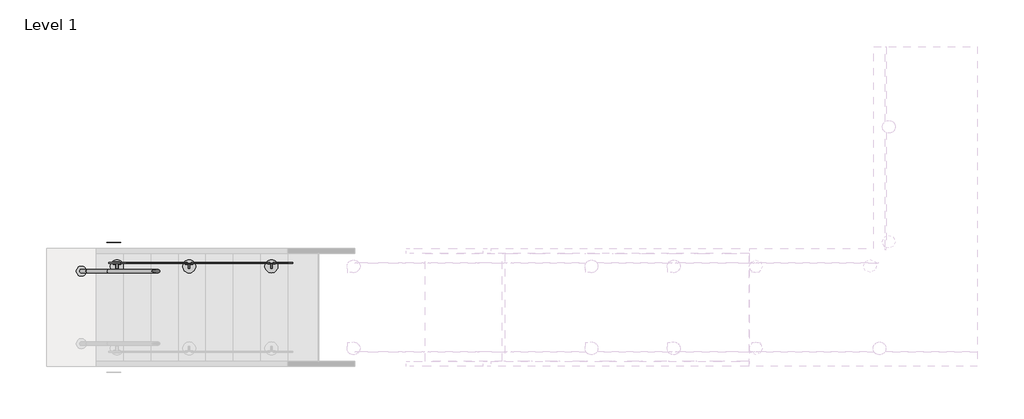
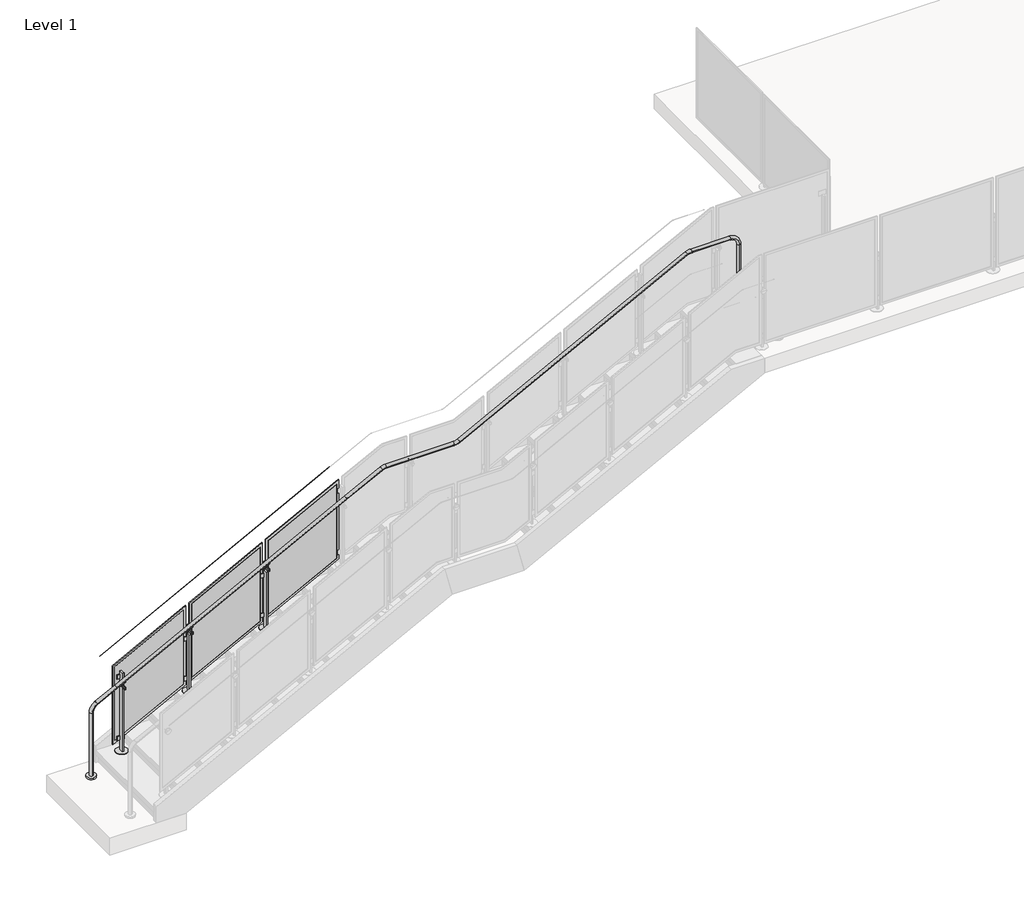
# One storey, part 25 of 28: 1 railing.
"""IFC4 building model written with IfcOpenShell, lengths in millimetres."""

from ifc_helpers import new_model, si_unit, point, frame, frame_2d, origin, place, context, project, spatial, polyline, circle_curve, ellipse_curve, trimmed, segment, composite_curve, outline, extrude, element, save
from ifc_brep_helpers import plane_surface, cylinder_surface, revolved_surface, advanced_brep

model = new_model("IFC4")

# Units and contexts
model_context = context("Model", 3, world=origin())
ifc_project = project(units=[si_unit("LENGTHUNIT", "METRE", prefix="MILLI")], contexts=[model_context])

# Site, building, storey
site = spatial("IfcSite", under=ifc_project)
building = spatial("IfcBuilding", under=site)
storey = spatial("IfcBuildingStorey", under=building, Name="Level 1", Elevation=0.0)

# Railing
placement = place(None, origin())
element("IfcRailing", 1, ObjectType="Metal-Panel-VIVA-STRUC-Top_Core-Stairs--Lower", at=placement, inside=storey, context=model_context, shape_type="SolidModel", body=[
    extrude(outline(composite_curve([segment(trimmed(circle_curve(frame_2d((-12073.0515794, 9296.0419722)), 50.8), [point((-12073.0515794, 9245.2419722))], [point((-12073.0515794, 9346.8419722))], False, "CARTESIAN"), True, "CONTINUOUS"), segment(trimmed(circle_curve(frame_2d((-12073.0515794, 9296.0419722)), 50.8), [point((-12073.0515794, 9346.8419722))], [point((-12073.0515794, 9245.2419722))], False, "CARTESIAN"), True, "CONTINUOUS")], self_intersect=False)), frame((0.0, 0.0, 3047.9164465), z_axis=(0.0, 0.0, 1.0), x_axis=(1.0, 0.0, 0.0)), (0.0, 0.0, 1.0), 19.05),
    extrude(outline(composite_curve([segment(trimmed(circle_curve(frame_2d((-19157.6813244, 9296.0419722)), 50.8), [point((-19157.6813244, 9346.8419722))], [point((-19157.6813244, 9245.2419722))], False, "CARTESIAN"), True, "CONTINUOUS"), segment(trimmed(circle_curve(frame_2d((-19157.6813244, 9296.0419722)), 50.8), [point((-19157.6813244, 9245.2419722))], [point((-19157.6813244, 9346.8419722))], False, "CARTESIAN"), True, "CONTINUOUS")], self_intersect=False)), frame((0.0, 0.0, -0.1113211), z_axis=(0.0, 0.0, 1.0), x_axis=(1.0, 0.0, 0.0)), (0.0, 0.0, 1.0), 19.05),
    advanced_brep(
    [(-19157.6813244, 9276.9919722, 18.9386789), (-19157.6813244, 9315.0919722, 18.9386789), (-19157.6813244, 9276.9919722, 743.6520958), (-19157.6813244, 9315.0919722, 743.6520958), (-19102.917891, 9315.0919722, 833.8124864), (-19102.917891, 9276.9919722, 833.8124864), (-18888.5494682, 9276.9919722, 945.172706), (-18888.5494682, 9315.0919722, 945.172706), (-16373.9494682, 9276.9919722, 2251.4584203), (-16373.9494682, 9315.0919722, 2251.4584203), (-15937.6556338, 9315.0919722, 2465.2134935), (-15937.6556338, 9276.9919722, 2465.2134935), (-15199.5082651, 9276.9919722, 2465.2134935), (-15199.5082651, 9315.0919722, 2465.2134935), (-15135.1079861, 9315.0919722, 2480.9429564), (-15135.1079861, 9276.9919722, 2480.9429564), (-12645.7274553, 9276.9919722, 3774.1276477), (-12645.7274553, 9315.0919722, 3774.1276477), (-15984.4922003, 9276.9919722, 2453.7738841), (-15984.4922003, 9315.0919722, 2453.7738841), (-12598.8908888, 9315.0919722, 3785.5672571), (-12598.8908888, 9276.9919722, 3785.5672571), (-12174.6515794, 9276.9919722, 3785.5672571), (-12174.6515794, 9315.0919722, 3785.5672571), (-12073.0515794, 9315.0919722, 3683.9672571), (-12073.0515794, 9276.9919722, 3683.9672571), (-12073.0515794, 9276.9919722, 3066.9664465), (-12073.0515794, 9315.0919722, 3066.9664465)],
    [
        (0, 1, circle_curve(frame((-19157.6813244, 9296.0419722, 18.9386789), z_axis=(0.0, 0.0, -1.0), x_axis=(0.0, 1.0, 0.0)), 19.05)),
        (1, 0, circle_curve(frame((-19157.6813244, 9296.0419722, 18.9386789), z_axis=(0.0, 0.0, -1.0), x_axis=(0.0, 1.0, 0.0)), 19.05)),
        (0, 2),
        (2, 3, circle_curve(frame((-19157.6813244, 9296.0419722, 743.6520958), z_axis=(0.0, 0.0, -1.0), x_axis=(0.0, 1.0, 0.0)), 19.05)),
        (3, 1),
        (3, 2, circle_curve(frame((-19157.6813244, 9296.0419722, 743.6520958), z_axis=(0.0, 0.0, -1.0), x_axis=(0.0, 1.0, 0.0)), 19.05)),
        (4, 3, circle_curve(frame((-19056.0813244, 9315.0919722, 743.6520958), z_axis=(0.0, -1.0, 0.0), x_axis=(-0.9999999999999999, 0.0, 0.0)), 101.6)),
        (2, 5, circle_curve(frame((-19056.0813244, 9276.9919722, 743.6520958), z_axis=(0.0, 1.0, 0.0), x_axis=(-0.9999999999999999, 0.0, 0.0)), 101.6)),
        (5, 4, circle_curve(frame((-19102.917891, 9296.0419722, 833.8124864), z_axis=(-0.8874054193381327, 0.0, -0.4609898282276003), x_axis=(0.0, 0.9999999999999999, 0.0)), 19.05)),
        (4, 5, circle_curve(frame((-19102.917891, 9296.0419722, 833.8124864), z_axis=(-0.8874054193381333, 0.0, -0.46098982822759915), x_axis=(0.0, 0.9999999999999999, 0.0)), 19.05)),
        (5, 6),
        (6, 7, circle_curve(frame((-18888.5494682, 9296.0419722, 945.172706), z_axis=(-0.8874054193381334, 0.0, -0.46098982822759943), x_axis=(0.0, 1.0, 0.0)), 19.05)),
        (7, 4),
        (7, 6, circle_curve(frame((-18888.5494682, 9296.0419722, 945.172706), z_axis=(-0.8874054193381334, 0.0, -0.46098982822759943), x_axis=(0.0, 1.0, 0.0)), 19.05)),
        (6, 8),
        (8, 9, circle_curve(frame((-16373.9494682, 9296.0419722, 2251.4584203), z_axis=(-0.8874054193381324, 0.0, -0.4609898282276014), x_axis=(0.0, 1.0, 0.0)), 19.05)),
        (9, 7),
        (9, 8, circle_curve(frame((-16373.9494682, 9296.0419722, 2251.4584203), z_axis=(-0.8874054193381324, 0.0, -0.4609898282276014), x_axis=(0.0, 1.0, 0.0)), 19.05)),
        (10, 11, circle_curve(frame((-15937.6556338, 9296.0419722, 2465.2134935), z_axis=(1.0, 0.0, 0.0), x_axis=(0.0, 1.0, 0.0)), 19.05)),
        (11, 12),
        (12, 13, circle_curve(frame((-15199.5082651, 9296.0419722, 2465.2134935), z_axis=(-1.0, 0.0, 0.0), x_axis=(0.0, 1.0, 0.0)), 19.05)),
        (13, 10),
        (11, 10, circle_curve(frame((-15937.6556338, 9296.0419722, 2465.2134935), z_axis=(1.0, 0.0, 0.0), x_axis=(0.0, 1.0, 0.0)), 19.05)),
        (13, 12, circle_curve(frame((-15199.5082651, 9296.0419722, 2465.2134935), z_axis=(-1.0, 0.0, 0.0), x_axis=(0.0, 1.0, 0.0)), 19.05)),
        (14, 15, circle_curve(frame((-15135.1079861, 9296.0419722, 2480.9429564), z_axis=(0.8874054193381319, 0.0, 0.4609898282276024), x_axis=(0.0, 1.0, 0.0)), 19.05)),
        (15, 16),
        (16, 17, circle_curve(frame((-12645.7274553, 9296.0419722, 3774.1276477), z_axis=(-0.8874054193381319, 0.0, -0.4609898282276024), x_axis=(0.0, 1.0, 0.0)), 19.05)),
        (17, 14),
        (15, 14, circle_curve(frame((-15135.1079861, 9296.0419722, 2480.9429564), z_axis=(0.8874054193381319, 0.0, 0.4609898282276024), x_axis=(0.0, 1.0, 0.0)), 19.05)),
        (17, 16, circle_curve(frame((-12645.7274553, 9296.0419722, 3774.1276477), z_axis=(-0.8874054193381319, 0.0, -0.4609898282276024), x_axis=(0.0, 1.0, 0.0)), 19.05)),
        (14, 13, circle_curve(frame((-15199.5082651, 9315.0919722, 2604.9134935), z_axis=(0.0, 1.0, 0.0), x_axis=(0.0, 0.0, -1.0)), 139.7)),
        (12, 15, circle_curve(frame((-15199.5082651, 9276.9919722, 2604.9134935), z_axis=(0.0, -1.0, 0.0), x_axis=(0.0, 0.0, -1.0)), 139.7)),
        (8, 18),
        (18, 19, circle_curve(frame((-15984.4922003, 9296.0419722, 2453.7738841), z_axis=(-0.8874054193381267, 0.0, -0.4609898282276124), x_axis=(0.0, 1.0, 0.0)), 19.05)),
        (19, 9),
        (19, 18, circle_curve(frame((-15984.4922003, 9296.0419722, 2453.7738841), z_axis=(-0.8874054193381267, 0.0, -0.4609898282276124), x_axis=(0.0, 1.0, 0.0)), 19.05)),
        (10, 19, circle_curve(frame((-15937.6556338, 9315.0919722, 2363.6134935), z_axis=(0.0, -1.0, 0.0), x_axis=(-0.4609898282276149, 0.0, 0.8874054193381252)), 101.6)),
        (18, 11, circle_curve(frame((-15937.6556338, 9276.9919722, 2363.6134935), z_axis=(0.0, 1.0, 0.0), x_axis=(-0.4609898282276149, 0.0, 0.8874054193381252)), 101.6)),
        (20, 17, circle_curve(frame((-12598.8908888, 9315.0919722, 3683.9672571), z_axis=(0.0, -1.0, 0.0), x_axis=(-0.4609898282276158, 0.0, 0.8874054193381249)), 101.6)),
        (16, 21, circle_curve(frame((-12598.8908888, 9276.9919722, 3683.9672571), z_axis=(0.0, 1.0, 0.0), x_axis=(-0.4609898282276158, 0.0, 0.8874054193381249)), 101.6)),
        (21, 20, circle_curve(frame((-12598.8908888, 9296.0419722, 3785.5672571), z_axis=(-1.0, 0.0, 0.0), x_axis=(0.0, 1.0, 0.0)), 19.05)),
        (20, 21, circle_curve(frame((-12598.8908888, 9296.0419722, 3785.5672571), z_axis=(-0.9999999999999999, 0.0, 0.0), x_axis=(0.0, 1.0, 0.0)), 19.05)),
        (21, 22),
        (22, 23, circle_curve(frame((-12174.6515794, 9296.0419722, 3785.5672571), z_axis=(-1.0, 0.0, 0.0), x_axis=(0.0, 1.0, 0.0)), 19.05)),
        (23, 20),
        (23, 22, circle_curve(frame((-12174.6515794, 9296.0419722, 3785.5672571), z_axis=(-1.0, 0.0, 0.0), x_axis=(0.0, 1.0, 0.0)), 19.05)),
        (24, 23, circle_curve(frame((-12174.6515794, 9315.0919722, 3683.9672571), z_axis=(0.0, -1.0, 0.0), x_axis=(0.0, 0.0, 1.0)), 101.6)),
        (22, 25, circle_curve(frame((-12174.6515794, 9276.9919722, 3683.9672571), z_axis=(0.0, 1.0, 0.0), x_axis=(0.0, 0.0, 1.0)), 101.6)),
        (25, 24, circle_curve(frame((-12073.0515794, 9296.0419722, 3683.9672571), z_axis=(0.0, 0.0, 1.0), x_axis=(0.0, 1.0, 0.0)), 19.05)),
        (24, 25, circle_curve(frame((-12073.0515794, 9296.0419722, 3683.9672571), z_axis=(0.0, 0.0, 1.0), x_axis=(0.0, 1.0, 0.0)), 19.05)),
        (26, 27, circle_curve(frame((-12073.0515794, 9296.0419722, 3066.9664465), z_axis=(0.0, 0.0, -1.0), x_axis=(0.0, 1.0, 0.0)), 19.05)),
        (27, 26, circle_curve(frame((-12073.0515794, 9296.0419722, 3066.9664465), z_axis=(0.0, 0.0, -1.0), x_axis=(0.0, 1.0, 0.0)), 19.05)),
        (25, 26),
        (27, 24),
    ],
    [
        plane_surface(frame((-19176.7313244, 9257.9419722, 18.9386789), z_axis=(0.0, 0.0, -1.0), x_axis=(1.0, 0.0, 0.0))),
        cylinder_surface(frame((-19157.6813244, 9296.0419722, 18.9386789), z_axis=(0.0, 0.0, -1.0), x_axis=(0.0, 1.0, 0.0)), 19.05),
        revolved_surface(trimmed(ellipse_curve(frame((-19157.6813244, 9296.0419722, 743.6520958), z_axis=(0.0, 0.0, -0.9999999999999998), x_axis=(0.0, 0.9999999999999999, 0.0)), 19.05, 19.05), [point((-19157.6813244, 9276.9919722, 743.6520958))], [point((-19157.6813244, 9315.0919722, 743.6520958))], True, "CARTESIAN"), (-19056.0813244, 9296.0419722, 743.6520958), (0.0, 0.9999999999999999, 0.0)),
        revolved_surface(trimmed(ellipse_curve(frame((-19157.6813244, 9296.0419722, 743.6520958), z_axis=(0.0, 0.0, -0.9999999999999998), x_axis=(0.0, 0.9999999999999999, 0.0)), 19.05, 19.05), [point((-19157.6813244, 9315.0919722, 743.6520958))], [point((-19157.6813244, 9276.9919722, 743.6520958))], True, "CARTESIAN"), (-19056.0813244, 9296.0419722, 743.6520958), (0.0, 0.9999999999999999, 0.0)),
        cylinder_surface(frame((-19102.917891, 9296.0419722, 833.8124864), z_axis=(-0.8874054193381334, 0.0, -0.46098982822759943), x_axis=(0.0, 1.0, 0.0)), 19.05),
        cylinder_surface(frame((-18888.5494682, 9296.0419722, 945.172706), z_axis=(-0.8874054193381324, 0.0, -0.4609898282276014), x_axis=(0.0, 1.0, 0.0)), 19.05),
        cylinder_surface(frame((-15937.6556338, 9296.0419722, 2465.2134935), z_axis=(-1.0, 0.0, 0.0), x_axis=(0.0, 1.0, 0.0)), 19.05),
        cylinder_surface(frame((-15135.1079861, 9296.0419722, 2480.9429564), z_axis=(-0.8874054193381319, 0.0, -0.4609898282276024), x_axis=(0.0, 1.0, 0.0)), 19.05),
        revolved_surface(trimmed(ellipse_curve(frame((-15199.5082651, 9296.0419722, 2465.2134935), z_axis=(-1.0, 0.0, 0.0), x_axis=(0.0, 1.0, 0.0)), 19.05, 19.05), [point((-15199.5082651, 9276.9919722, 2465.2134935))], [point((-15199.5082651, 9315.0919722, 2465.2134935))], True, "CARTESIAN"), (-15199.5082651, 9296.0419722, 2604.9134935), (0.0, -1.0, 0.0)),
        revolved_surface(trimmed(ellipse_curve(frame((-15199.5082651, 9296.0419722, 2465.2134935), z_axis=(-1.0, 0.0, 0.0), x_axis=(0.0, 1.0, 0.0)), 19.05, 19.05), [point((-15199.5082651, 9315.0919722, 2465.2134935))], [point((-15199.5082651, 9276.9919722, 2465.2134935))], True, "CARTESIAN"), (-15199.5082651, 9296.0419722, 2604.9134935), (0.0, -1.0, 0.0)),
        cylinder_surface(frame((-16373.9494682, 9296.0419722, 2251.4584203), z_axis=(-0.8874054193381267, 0.0, -0.4609898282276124), x_axis=(0.0, 1.0, 0.0)), 19.05),
        revolved_surface(trimmed(ellipse_curve(frame((-15984.4922003, 9296.0419722, 2453.7738841), z_axis=(-0.887405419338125, 0.0, -0.46098982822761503), x_axis=(0.0, 0.9999999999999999, 0.0)), 19.05, 19.05), [point((-15984.4922003, 9276.9919722, 2453.7738841))], [point((-15984.4922003, 9315.0919722, 2453.7738841))], True, "CARTESIAN"), (-15937.6556338, 9296.0419722, 2363.6134935), (0.0, 0.9999999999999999, 0.0)),
        revolved_surface(trimmed(ellipse_curve(frame((-15984.4922003, 9296.0419722, 2453.7738841), z_axis=(-0.887405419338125, 0.0, -0.46098982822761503), x_axis=(0.0, 0.9999999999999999, 0.0)), 19.05, 19.05), [point((-15984.4922003, 9315.0919722, 2453.7738841))], [point((-15984.4922003, 9276.9919722, 2453.7738841))], True, "CARTESIAN"), (-15937.6556338, 9296.0419722, 2363.6134935), (0.0, 0.9999999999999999, 0.0)),
        revolved_surface(trimmed(ellipse_curve(frame((-12645.7274553, 9296.0419722, 3774.1276477), z_axis=(-0.8874054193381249, 0.0, -0.4609898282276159), x_axis=(0.0, 1.0, 0.0)), 19.05, 19.05), [point((-12645.7274553, 9276.9919722, 3774.1276477))], [point((-12645.7274553, 9315.0919722, 3774.1276477))], True, "CARTESIAN"), (-12598.8908888, 9296.0419722, 3683.9672571), (0.0, 1.0, 0.0)),
        revolved_surface(trimmed(ellipse_curve(frame((-12645.7274553, 9296.0419722, 3774.1276477), z_axis=(-0.8874054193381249, 0.0, -0.4609898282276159), x_axis=(0.0, 1.0, 0.0)), 19.05, 19.05), [point((-12645.7274553, 9315.0919722, 3774.1276477))], [point((-12645.7274553, 9276.9919722, 3774.1276477))], True, "CARTESIAN"), (-12598.8908888, 9296.0419722, 3683.9672571), (0.0, 1.0, 0.0)),
        cylinder_surface(frame((-12598.8908888, 9296.0419722, 3785.5672571), z_axis=(-1.0, 0.0, 0.0), x_axis=(0.0, 1.0, 0.0)), 19.05),
        revolved_surface(trimmed(ellipse_curve(frame((-12174.6515794, 9296.0419722, 3785.5672571), z_axis=(-1.0, 0.0, 0.0), x_axis=(0.0, 1.0, 0.0)), 19.05, 19.05), [point((-12174.6515794, 9276.9919722, 3785.5672571))], [point((-12174.6515794, 9315.0919722, 3785.5672571))], True, "CARTESIAN"), (-12174.6515794, 9296.0419722, 3683.9672571), (0.0, 1.0, 0.0)),
        revolved_surface(trimmed(ellipse_curve(frame((-12174.6515794, 9296.0419722, 3785.5672571), z_axis=(-1.0, 0.0, 0.0), x_axis=(0.0, 1.0, 0.0)), 19.05, 19.05), [point((-12174.6515794, 9315.0919722, 3785.5672571))], [point((-12174.6515794, 9276.9919722, 3785.5672571))], True, "CARTESIAN"), (-12174.6515794, 9296.0419722, 3683.9672571), (0.0, 1.0, 0.0)),
        plane_surface(frame((-12054.0015794, 9257.9419722, 3066.9664465), z_axis=(0.0, 0.0, -1.0), x_axis=(-1.0, 0.0, 0.0))),
        cylinder_surface(frame((-12073.0515794, 9296.0419722, 3683.9672571), z_axis=(0.0, 0.0, 1.0), x_axis=(0.0, 1.0, 0.0)), 19.05),
    ],
    [
        (0, [[1, 2]]),
        (1, [[-1, 3, 4, 5]]),
        (1, [[-2, -5, 6, -3]]),
        (2, [[7, -4, 8, 9]]),
        (3, [[-8, -6, -7, 10]]),
        (4, [[-9, 11, 12, 13]]),
        (4, [[-10, -13, 14, -11]]),
        (5, [[-12, 15, 16, 17]]),
        (5, [[-14, -17, 18, -15]]),
        (6, [[19, 20, 21, 22]]),
        (6, [[23, -22, 24, -20]]),
        (7, [[25, 26, 27, 28]]),
        (7, [[29, -28, 30, -26]]),
        (8, [[31, -21, 32, -25]]),
        (9, [[-32, -24, -31, -29]]),
        (10, [[-16, 33, 34, 35]]),
        (10, [[-18, -35, 36, -33]]),
        (11, [[37, -34, 38, -19]]),
        (12, [[-38, -36, -37, -23]]),
        (13, [[39, -27, 40, 41]]),
        (14, [[-40, -30, -39, 42]]),
        (15, [[-41, 43, 44, 45]]),
        (15, [[-42, -45, 46, -43]]),
        (16, [[47, -44, 48, 49]]),
        (17, [[-48, -46, -47, 50]]),
        (18, [[51, 52]]),
        (19, [[-49, 53, -52, 54]]),
        (19, [[-50, -54, -51, -53]]),
    ],
),
    advanced_brep(
    [(-18897.3313244, 9587.7913722, 1127.7573389), (-18897.3313244, 9588.7913722, 1127.7573389), (-16382.7313244, 9587.7913722, 2434.0430532), (-16382.7313244, 9588.7913722, 2434.0430532)],
    [
        (0, 1, ellipse_curve(frame((-18897.3313244, 9588.2913722, 1127.7573389), z_axis=(-1.0, 0.0, 0.0), x_axis=(0.0, 0.0, -0.9999999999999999)), 0.5634403, 0.5)),
        (1, 0, ellipse_curve(frame((-18897.3313244, 9588.2913722, 1127.7573389), z_axis=(-1.0, 0.0, 0.0), x_axis=(0.0, 0.0, -0.9999999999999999)), 0.5634403, 0.5)),
        (2, 3, ellipse_curve(frame((-16382.7313244, 9588.2913722, 2434.0430532), z_axis=(1.0, 0.0, 0.0), x_axis=(0.0, 0.0, -0.9999999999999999)), 0.5634403, 0.5)),
        (3, 2, ellipse_curve(frame((-16382.7313244, 9588.2913722, 2434.0430532), z_axis=(1.0, 0.0, 0.0), x_axis=(0.0, 0.0, -0.9999999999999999)), 0.5634403, 0.5)),
        (0, 2),
        (3, 1),
    ],
    [
        plane_surface(frame((-18897.3313244, 9588.2913722, 1128.3207792), z_axis=(-1.0, 0.0, 0.0), x_axis=(0.0, 1.0, 0.0))),
        plane_surface(frame((-16382.7313244, 9588.2913722, 2434.6064935), z_axis=(1.0, 0.0, 0.0), x_axis=(0.0, 1.0, 0.0))),
        cylinder_surface(frame((-18897.1008295, 9588.2913722, 1127.8770765), z_axis=(-0.8874054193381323, 0.0, -0.4609898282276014), x_axis=(0.0, 1.0, 0.0)), 0.5),
    ],
    [
        (0, [[1, 2]]),
        (1, [[3, 4]]),
        (2, [[-1, 5, -4, 6]]),
        (2, [[-2, -6, -3, -5]]),
    ],
),
    extrude(outline(polyline([(1137.4121771, -17176.4853675), (1526.663131, -16427.1772814), (2380.4498878, -16427.1772814), (1991.198934, -17176.4853675), (1137.4121771, -17176.4853675)])), frame((0.0, 9374.2725722, 0.0), z_axis=(0.0, 1.0, 0.0), x_axis=(0.0, 0.0, 1.0)), (0.0, 0.0, 1.0), 3.0),
    extrude(outline(polyline([(2006.6268974, -17201.8853675), (1095.5946033, -17201.8853675), (1511.2351675, -16401.7772814), (2422.2674616, -16401.7772814), (2006.6268974, -17201.8853675)]), holes=[polyline([(1137.4121771, -17176.4853675), (1991.198934, -17176.4853675), (2380.4498878, -16427.1772814), (1526.663131, -16427.1772814), (1137.4121771, -17176.4853675)])]), frame((0.0, 9374.2725722, 0.0), z_axis=(0.0, 1.0, 0.0), x_axis=(0.0, 0.0, 1.0)), (0.0, 0.0, 1.0), 9.525),
    extrude(outline(polyline([(-17259.0320437, 9367.2381722), (-17259.0320437, 9374.3501722), (-17182.8306052, 9374.3501722), (-17182.8306052, 9367.2381722), (-17259.0320437, 9367.2381722)])), frame((0.0, 0.0, 1585.976), z_axis=(0.0, 0.0, 1.0), x_axis=(1.0, 0.0, 0.0)), (0.0, 0.0, 1.0), 50.8),
    extrude(outline(polyline([(-17259.0320437, 9367.2381722), (-17259.0320437, 9374.3501722), (-17182.8306052, 9374.3501722), (-17182.8306052, 9367.2381722), (-17259.0320437, 9367.2381722)])), frame((0.0, 0.0, 1128.776), z_axis=(0.0, 0.0, 1.0), x_axis=(1.0, 0.0, 0.0)), (0.0, 0.0, 1.0), 50.8),
    extrude(outline(composite_curve([segment(trimmed(circle_curve(frame_2d((-19.0451471, 0.0)), 22.0448871), [point((2.9997401, 0.0))], [point((-24.3499072, -21.3971159))], False, "CARTESIAN"), True, "CONTINUOUS"), segment(polyline([(-24.3499072, -21.3971159), (-23.6280664, -18.4855208)]), True, "CONTINUOUS"), segment(trimmed(circle_curve(frame_2d((-19.0451471, 0.0)), 19.0451471), [point((-23.6280664, -18.4855208))], [point((0.0, 0.0))], True, "CARTESIAN"), True, "CONTINUOUS"), segment(polyline([(0.0, 0.0), (2.9997401, 0.0)]), True, "CONTINUOUS")], self_intersect=False)), frame((-17283.4190349, 9313.1501722, 1757.5297189), z_axis=(0.8874054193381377, 0.0, 0.46098982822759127), x_axis=(0.28405456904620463, 0.7876022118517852, -0.5468050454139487)), (0.0, 0.0, 1.0), 79.1184357),
    advanced_brep(
    [(-17208.5341468, 9298.1501722, 1699.1899551), (-17208.5341468, 9291.0064222, 1699.1899551), (-17208.5341468, 9305.2939222, 1699.1899551), (-17244.3933931, 9305.2939222, 1768.2190042), (-17244.3933931, 9291.0064222, 1768.2190042), (-17244.3933931, 9298.1501722, 1768.2190042)],
    [
        (0, 1),
        (1, 2, circle_curve(frame((-17208.5341468, 9298.1501722, 1699.1899551), z_axis=(0.4609898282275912, 0.0, -0.8874054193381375), x_axis=(0.0, -1.0000000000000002, 0.0)), 7.14375)),
        (2, 0),
        (3, 4, circle_curve(frame((-17244.3933931, 9298.1501722, 1768.2190042), z_axis=(-0.4609898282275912, 0.0, 0.8874054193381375), x_axis=(0.0, -1.0000000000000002, 0.0)), 7.14375)),
        (4, 5),
        (5, 3),
        (2, 1, circle_curve(frame((-17208.5341468, 9298.1501722, 1699.1899551), z_axis=(0.4609898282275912, 0.0, -0.8874054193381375), x_axis=(0.0, -1.0000000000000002, 0.0)), 7.14375)),
        (4, 3, circle_curve(frame((-17244.3933931, 9298.1501722, 1768.2190042), z_axis=(-0.4609898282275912, 0.0, 0.8874054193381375), x_axis=(0.0, -1.0000000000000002, 0.0)), 7.14375)),
        (1, 4),
        (3, 2),
    ],
    [
        plane_surface(frame((-17208.5341468, 9298.1501722, 1699.1899551), z_axis=(0.4609898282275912, 0.0, -0.8874054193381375), x_axis=(0.0, -1.0, 0.0))),
        plane_surface(frame((-17244.3933931, 9298.1501722, 1768.2190042), z_axis=(-0.4609898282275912, 0.0, 0.8874054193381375), x_axis=(0.0, -1.0, 0.0))),
        cylinder_surface(frame((-17091.5799469, 9298.1501722, 1474.0531204), z_axis=(0.4609898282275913, 0.0, -0.8874054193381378), x_axis=(0.0, -1.0000000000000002, 0.0)), 7.14375),
    ],
    [
        (0, [[1, 2, 3]]),
        (1, [[4, 5, 6]]),
        (0, [[-3, 7, -1]]),
        (1, [[8, -6, -5]]),
        (2, [[-2, 9, -4, 10]]),
        (2, [[-7, -10, -8, -9]]),
    ],
),
    advanced_brep(
    [(-17247.6976904, 9383.8751722, 1709.1499164), (-17194.1649585, 9383.8751722, 1736.9591278), (-17215.2963, 9383.8751722, 1725.9818075), (-17226.5663488, 9383.8751722, 1720.1272367), (-17247.6976904, 9391.8126722, 1709.1499164), (-17194.1649585, 9391.8126722, 1736.9591278), (-17247.6976904, 9366.4126722, 1709.1499164), (-17194.1649585, 9366.4126722, 1736.9591278), (-17209.6612756, 9366.4126722, 1728.9090929), (-17232.2013733, 9366.4126722, 1717.1999513), (-17247.6976904, 9374.3501722, 1709.1499164), (-17194.1649585, 9374.3501722, 1736.9591278), (-17220.9313244, 9391.8126722, 1723.0545221), (-17232.2013733, 9287.0376722, 1717.1999513), (-17209.6612756, 9287.0376722, 1728.9090929), (-17220.9313244, 9287.0376722, 1723.0545221), (-17226.5663488, 9374.3501722, 1720.1272367), (-17215.2963, 9374.3501722, 1725.9818075)],
    [
        (0, 1, circle_curve(frame((-17220.9313244, 9383.8751722, 1723.0545221), z_axis=(0.0, -1.0, 0.0), x_axis=(0.887405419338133, 0.0, 0.46098982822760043)), 30.1625)),
        (1, 2),
        (2, 3, circle_curve(frame((-17220.9313244, 9383.8751722, 1723.0545221), z_axis=(0.0, 1.0, 0.0), x_axis=(0.887405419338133, 0.0, 0.46098982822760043)), 6.35)),
        (3, 0),
        (4, 5, circle_curve(frame((-17220.9313244, 9391.8126722, 1723.0545221), z_axis=(0.0, -1.0, 0.0), x_axis=(0.887405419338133, 0.0, 0.46098982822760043)), 30.1625)),
        (5, 1),
        (0, 4),
        (6, 7, circle_curve(frame((-17220.9313244, 9366.4126722, 1723.0545221), z_axis=(0.0, -1.0, 0.0), x_axis=(0.887405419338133, 0.0, 0.46098982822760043)), 30.1625)),
        (7, 8),
        (8, 9, circle_curve(frame((-17220.9313244, 9366.4126722, 1723.0545221), z_axis=(0.0, 1.0, 0.0), x_axis=(0.887405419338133, 0.0, 0.46098982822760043)), 12.7)),
        (9, 6),
        (10, 11, circle_curve(frame((-17220.9313244, 9374.3501722, 1723.0545221), z_axis=(0.0, -1.0, 0.0), x_axis=(0.887405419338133, 0.0, 0.46098982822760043)), 30.1625)),
        (11, 7),
        (6, 10),
        (5, 4, circle_curve(frame((-17220.9313244, 9391.8126722, 1723.0545221), z_axis=(0.0, -1.0, 0.0), x_axis=(0.887405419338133, 0.0, 0.46098982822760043)), 30.1625)),
        (0, 1, circle_curve(frame((-17220.9313244, 9383.8751722, 1723.0545221), z_axis=(0.0, 1.0, 0.0), x_axis=(0.887405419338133, 0.0, 0.46098982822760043)), 30.1625)),
        (12, 5),
        (4, 12),
        (13, 14, circle_curve(frame((-17220.9313244, 9287.0376722, 1723.0545221), z_axis=(0.0, -1.0, 0.0), x_axis=(0.887405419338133, 0.0, 0.46098982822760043)), 12.7)),
        (14, 15),
        (15, 13),
        (14, 13, circle_curve(frame((-17220.9313244, 9287.0376722, 1723.0545221), z_axis=(0.0, -1.0, 0.0), x_axis=(0.887405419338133, 0.0, 0.46098982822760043)), 12.7)),
        (8, 14),
        (13, 9),
        (8, 9, circle_curve(frame((-17220.9313244, 9366.4126722, 1723.0545221), z_axis=(0.0, -1.0, 0.0), x_axis=(0.887405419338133, 0.0, 0.46098982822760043)), 12.7)),
        (7, 6, circle_curve(frame((-17220.9313244, 9366.4126722, 1723.0545221), z_axis=(0.0, -1.0, 0.0), x_axis=(0.887405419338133, 0.0, 0.46098982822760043)), 30.1625)),
        (11, 10, circle_curve(frame((-17220.9313244, 9374.3501722, 1723.0545221), z_axis=(0.0, -1.0, 0.0), x_axis=(0.887405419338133, 0.0, 0.46098982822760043)), 30.1625)),
        (16, 17, circle_curve(frame((-17220.9313244, 9374.3501722, 1723.0545221), z_axis=(0.0, -1.0, 0.0), x_axis=(0.887405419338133, 0.0, 0.46098982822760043)), 6.35)),
        (17, 11),
        (10, 16),
        (17, 16, circle_curve(frame((-17220.9313244, 9374.3501722, 1723.0545221), z_axis=(0.0, -1.0, 0.0), x_axis=(0.887405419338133, 0.0, 0.46098982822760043)), 6.35)),
        (2, 17),
        (16, 3),
        (2, 3, circle_curve(frame((-17220.9313244, 9383.8751722, 1723.0545221), z_axis=(0.0, -1.0, 0.0), x_axis=(0.887405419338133, 0.0, 0.46098982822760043)), 6.35)),
    ],
    [
        plane_surface(frame((-17220.9313244, 9383.8751722, 1723.0545221), z_axis=(0.0, -1.0000000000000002, 0.0), x_axis=(0.887405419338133, 0.0, 0.46098982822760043))),
        cylinder_surface(frame((-17220.9313244, 10898.3501722, 1723.0545221), z_axis=(0.0, 1.0000000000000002, 0.0), x_axis=(0.887405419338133, 0.0, 0.46098982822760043)), 30.1625),
        plane_surface(frame((-17220.9313244, 9366.4126722, 1723.0545221), z_axis=(0.0, -1.0000000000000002, 0.0), x_axis=(0.887405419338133, 0.0, 0.46098982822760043))),
        plane_surface(frame((-17220.9313244, 9391.8126722, 1723.0545221), z_axis=(0.0, 1.0000000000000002, 0.0), x_axis=(0.887405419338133, 0.0, 0.46098982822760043))),
        plane_surface(frame((-17220.9313244, 9287.0376722, 1723.0545221), z_axis=(0.0, -1.0000000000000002, 0.0), x_axis=(0.887405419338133, 0.0, 0.46098982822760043))),
        cylinder_surface(frame((-17220.9313244, 10898.3501722, 1723.0545221), z_axis=(0.0, 1.0000000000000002, 0.0), x_axis=(0.887405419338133, 0.0, 0.46098982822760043)), 12.7),
        plane_surface(frame((-17220.9313244, 9374.3501722, 1723.0545221), z_axis=(0.0, 1.0000000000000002, 0.0), x_axis=(0.887405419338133, 0.0, 0.46098982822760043))),
        cylinder_surface(frame((-17220.9313244, 10898.3501722, 1723.0545221), z_axis=(0.0, 1.0000000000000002, 0.0), x_axis=(0.887405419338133, 0.0, 0.46098982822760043)), 6.35),
    ],
    [
        (0, [[1, 2, 3, 4]]),
        (1, [[5, 6, -1, 7]]),
        (2, [[8, 9, 10, 11]]),
        (1, [[12, 13, -8, 14]]),
        (1, [[15, -7, 16, -6]]),
        (3, [[17, -5, 18]]),
        (3, [[-18, -15, -17]]),
        (4, [[19, 20, 21]]),
        (4, [[22, -21, -20]]),
        (5, [[-10, 23, -19, 24]]),
        (5, [[25, -24, -22, -23]]),
        (2, [[26, -11, -25, -9]]),
        (1, [[27, -14, -26, -13]]),
        (6, [[28, 29, -12, 30]]),
        (6, [[31, -30, -27, -29]]),
        (7, [[-3, 32, -28, 33]]),
        (7, [[34, -33, -31, -32]]),
        (0, [[-16, -4, -34, -2]]),
    ],
),
    extrude(outline(composite_curve([segment(trimmed(circle_curve(frame_2d((-17220.9313244, 9345.0131722)), 65.8876), [point((-17220.9313244, 9410.9007722))], [point((-17220.9313244, 9279.1255722))], False, "CARTESIAN"), True, "CONTINUOUS"), segment(trimmed(circle_curve(frame_2d((-17220.9313244, 9345.0131722)), 65.8876), [point((-17220.9313244, 9279.1255722))], [point((-17220.9313244, 9410.9007722))], False, "CARTESIAN"), True, "CONTINUOUS")], self_intersect=False)), frame((0.0, 0.0, 1016.0), z_axis=(0.0, 0.0, 1.0), x_axis=(1.0, 0.0, 0.0)), (0.0, 0.0, 1.0), 2.9821299),
    extrude(outline(polyline([(-17228.8709161, 9322.7881722), (-17228.8709161, 9367.2381722), (-17212.9917328, 9367.2381722), (-17212.9917328, 9322.7881722), (-17228.8709161, 9322.7881722)])), frame((0.0, 0.0, 914.4), z_axis=(0.0, 0.0, 1.0), x_axis=(1.0, 0.0, 0.0)), (0.0, 0.0, 1.0), 762.0),
    extrude(outline(polyline([(701.9836057, -18014.6853675), (1091.2345595, -17265.3772814), (1945.0213164, -17265.3772814), (1555.7703626, -18014.6853675), (701.9836057, -18014.6853675)])), frame((0.0, 9374.2725722, 0.0), z_axis=(0.0, 1.0, 0.0), x_axis=(0.0, 0.0, 1.0)), (0.0, 0.0, 1.0), 3.0),
    extrude(outline(polyline([(1571.198326, -18040.0853675), (660.1660319, -18040.0853675), (1075.8065961, -17239.9772814), (1986.8388902, -17239.9772814), (1571.198326, -18040.0853675)]), holes=[polyline([(701.9836057, -18014.6853675), (1555.7703626, -18014.6853675), (1945.0213164, -17265.3772814), (1091.2345595, -17265.3772814), (701.9836057, -18014.6853675)])]), frame((0.0, 9374.2725722, 0.0), z_axis=(0.0, 1.0, 0.0), x_axis=(0.0, 0.0, 1.0)), (0.0, 0.0, 1.0), 9.525),
    extrude(outline(polyline([(-18097.2320437, 9367.2381722), (-18097.2320437, 9374.3501722), (-18021.0306052, 9374.3501722), (-18021.0306052, 9367.2381722), (-18097.2320437, 9367.2381722)])), frame((0.0, 0.0, 1150.5474286), z_axis=(0.0, 0.0, 1.0), x_axis=(1.0, 0.0, 0.0)), (0.0, 0.0, 1.0), 50.8),
    extrude(outline(polyline([(-18097.2320437, 9367.2381722), (-18097.2320437, 9374.3501722), (-18021.0306052, 9374.3501722), (-18021.0306052, 9367.2381722), (-18097.2320437, 9367.2381722)])), frame((0.0, 0.0, 693.3474286), z_axis=(0.0, 0.0, 1.0), x_axis=(1.0, 0.0, 0.0)), (0.0, 0.0, 1.0), 50.8),
    extrude(outline(composite_curve([segment(trimmed(circle_curve(frame_2d((-19.0451471, 0.0)), 22.0448871), [point((2.9997401, 0.0))], [point((-24.3499072, -21.3971159))], False, "CARTESIAN"), True, "CONTINUOUS"), segment(polyline([(-24.3499072, -21.3971159), (-23.6280664, -18.4855208)]), True, "CONTINUOUS"), segment(trimmed(circle_curve(frame_2d((-19.0451471, 0.0)), 19.0451471), [point((-23.6280664, -18.4855208))], [point((0.0, 0.0))], True, "CARTESIAN"), True, "CONTINUOUS"), segment(polyline([(0.0, 0.0), (2.9997401, 0.0)]), True, "CONTINUOUS")], self_intersect=False)), frame((-18121.6190349, 9313.1501722, 1322.1011475), z_axis=(0.8874054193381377, 0.0, 0.46098982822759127), x_axis=(0.28405456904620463, 0.7876022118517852, -0.5468050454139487)), (0.0, 0.0, 1.0), 79.1184357),
    advanced_brep(
    [(-18046.7341468, 9298.1501722, 1263.7613837), (-18046.7341468, 9291.0064222, 1263.7613837), (-18046.7341468, 9305.2939222, 1263.7613837), (-18082.5933931, 9305.2939222, 1332.7904328), (-18082.5933931, 9291.0064222, 1332.7904328), (-18082.5933931, 9298.1501722, 1332.7904328)],
    [
        (0, 1),
        (1, 2, circle_curve(frame((-18046.7341468, 9298.1501722, 1263.7613837), z_axis=(0.4609898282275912, 0.0, -0.8874054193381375), x_axis=(0.0, -1.0000000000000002, 0.0)), 7.14375)),
        (2, 0),
        (3, 4, circle_curve(frame((-18082.5933931, 9298.1501722, 1332.7904328), z_axis=(-0.4609898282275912, 0.0, 0.8874054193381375), x_axis=(0.0, -1.0000000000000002, 0.0)), 7.14375)),
        (4, 5),
        (5, 3),
        (2, 1, circle_curve(frame((-18046.7341468, 9298.1501722, 1263.7613837), z_axis=(0.4609898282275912, 0.0, -0.8874054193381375), x_axis=(0.0, -1.0000000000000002, 0.0)), 7.14375)),
        (4, 3, circle_curve(frame((-18082.5933931, 9298.1501722, 1332.7904328), z_axis=(-0.4609898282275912, 0.0, 0.8874054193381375), x_axis=(0.0, -1.0000000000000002, 0.0)), 7.14375)),
        (1, 4),
        (3, 2),
    ],
    [
        plane_surface(frame((-18046.7341468, 9298.1501722, 1263.7613837), z_axis=(0.4609898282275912, 0.0, -0.8874054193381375), x_axis=(0.0, -1.0, 0.0))),
        plane_surface(frame((-18082.5933931, 9298.1501722, 1332.7904328), z_axis=(-0.4609898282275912, 0.0, 0.8874054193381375), x_axis=(0.0, -1.0, 0.0))),
        cylinder_surface(frame((-17929.7799469, 9298.1501722, 1038.624549), z_axis=(0.4609898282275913, 0.0, -0.8874054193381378), x_axis=(0.0, -1.0000000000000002, 0.0)), 7.14375),
    ],
    [
        (0, [[1, 2, 3]]),
        (1, [[4, 5, 6]]),
        (0, [[-3, 7, -1]]),
        (1, [[8, -6, -5]]),
        (2, [[-2, 9, -4, 10]]),
        (2, [[-7, -10, -8, -9]]),
    ],
),
    advanced_brep(
    [(-18085.8976904, 9383.8751722, 1273.721345), (-18032.3649585, 9383.8751722, 1301.5305563), (-18053.4963, 9383.8751722, 1290.5532361), (-18064.7663488, 9383.8751722, 1284.6986652), (-18085.8976904, 9391.8126722, 1273.721345), (-18032.3649585, 9391.8126722, 1301.5305563), (-18085.8976904, 9366.4126722, 1273.721345), (-18032.3649585, 9366.4126722, 1301.5305563), (-18047.8612756, 9366.4126722, 1293.4805215), (-18070.4013733, 9366.4126722, 1281.7713798), (-18085.8976904, 9374.3501722, 1273.721345), (-18032.3649585, 9374.3501722, 1301.5305563), (-18059.1313244, 9391.8126722, 1287.6259506), (-18070.4013733, 9287.0376722, 1281.7713798), (-18047.8612756, 9287.0376722, 1293.4805215), (-18059.1313244, 9287.0376722, 1287.6259506), (-18064.7663488, 9374.3501722, 1284.6986652), (-18053.4963, 9374.3501722, 1290.5532361)],
    [
        (0, 1, circle_curve(frame((-18059.1313244, 9383.8751722, 1287.6259506), z_axis=(0.0, -1.0, 0.0), x_axis=(0.887405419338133, 0.0, 0.46098982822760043)), 30.1625)),
        (1, 2),
        (2, 3, circle_curve(frame((-18059.1313244, 9383.8751722, 1287.6259506), z_axis=(0.0, 1.0, 0.0), x_axis=(0.887405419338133, 0.0, 0.46098982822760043)), 6.35)),
        (3, 0),
        (4, 5, circle_curve(frame((-18059.1313244, 9391.8126722, 1287.6259506), z_axis=(0.0, -1.0, 0.0), x_axis=(0.887405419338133, 0.0, 0.46098982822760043)), 30.1625)),
        (5, 1),
        (0, 4),
        (6, 7, circle_curve(frame((-18059.1313244, 9366.4126722, 1287.6259506), z_axis=(0.0, -1.0, 0.0), x_axis=(0.887405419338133, 0.0, 0.46098982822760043)), 30.1625)),
        (7, 8),
        (8, 9, circle_curve(frame((-18059.1313244, 9366.4126722, 1287.6259506), z_axis=(0.0, 1.0, 0.0), x_axis=(0.887405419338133, 0.0, 0.46098982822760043)), 12.7)),
        (9, 6),
        (10, 11, circle_curve(frame((-18059.1313244, 9374.3501722, 1287.6259506), z_axis=(0.0, -1.0, 0.0), x_axis=(0.887405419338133, 0.0, 0.46098982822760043)), 30.1625)),
        (11, 7),
        (6, 10),
        (5, 4, circle_curve(frame((-18059.1313244, 9391.8126722, 1287.6259506), z_axis=(0.0, -1.0, 0.0), x_axis=(0.887405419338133, 0.0, 0.46098982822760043)), 30.1625)),
        (0, 1, circle_curve(frame((-18059.1313244, 9383.8751722, 1287.6259506), z_axis=(0.0, 1.0, 0.0), x_axis=(0.887405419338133, 0.0, 0.46098982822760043)), 30.1625)),
        (12, 5),
        (4, 12),
        (13, 14, circle_curve(frame((-18059.1313244, 9287.0376722, 1287.6259506), z_axis=(0.0, -1.0, 0.0), x_axis=(0.887405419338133, 0.0, 0.46098982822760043)), 12.7)),
        (14, 15),
        (15, 13),
        (14, 13, circle_curve(frame((-18059.1313244, 9287.0376722, 1287.6259506), z_axis=(0.0, -1.0, 0.0), x_axis=(0.887405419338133, 0.0, 0.46098982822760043)), 12.7)),
        (8, 14),
        (13, 9),
        (8, 9, circle_curve(frame((-18059.1313244, 9366.4126722, 1287.6259506), z_axis=(0.0, -1.0, 0.0), x_axis=(0.887405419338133, 0.0, 0.46098982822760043)), 12.7)),
        (7, 6, circle_curve(frame((-18059.1313244, 9366.4126722, 1287.6259506), z_axis=(0.0, -1.0, 0.0), x_axis=(0.887405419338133, 0.0, 0.46098982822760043)), 30.1625)),
        (11, 10, circle_curve(frame((-18059.1313244, 9374.3501722, 1287.6259506), z_axis=(0.0, -1.0, 0.0), x_axis=(0.887405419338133, 0.0, 0.46098982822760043)), 30.1625)),
        (16, 17, circle_curve(frame((-18059.1313244, 9374.3501722, 1287.6259506), z_axis=(0.0, -1.0, 0.0), x_axis=(0.887405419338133, 0.0, 0.46098982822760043)), 6.35)),
        (17, 11),
        (10, 16),
        (17, 16, circle_curve(frame((-18059.1313244, 9374.3501722, 1287.6259506), z_axis=(0.0, -1.0, 0.0), x_axis=(0.887405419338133, 0.0, 0.46098982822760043)), 6.35)),
        (2, 17),
        (16, 3),
        (2, 3, circle_curve(frame((-18059.1313244, 9383.8751722, 1287.6259506), z_axis=(0.0, -1.0, 0.0), x_axis=(0.887405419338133, 0.0, 0.46098982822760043)), 6.35)),
    ],
    [
        plane_surface(frame((-18059.1313244, 9383.8751722, 1287.6259506), z_axis=(0.0, -1.0000000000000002, 0.0), x_axis=(0.887405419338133, 0.0, 0.46098982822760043))),
        cylinder_surface(frame((-18059.1313244, 10898.3501722, 1287.6259506), z_axis=(0.0, 1.0000000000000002, 0.0), x_axis=(0.887405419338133, 0.0, 0.46098982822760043)), 30.1625),
        plane_surface(frame((-18059.1313244, 9366.4126722, 1287.6259506), z_axis=(0.0, -1.0000000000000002, 0.0), x_axis=(0.887405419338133, 0.0, 0.46098982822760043))),
        plane_surface(frame((-18059.1313244, 9391.8126722, 1287.6259506), z_axis=(0.0, 1.0000000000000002, 0.0), x_axis=(0.887405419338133, 0.0, 0.46098982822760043))),
        plane_surface(frame((-18059.1313244, 9287.0376722, 1287.6259506), z_axis=(0.0, -1.0000000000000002, 0.0), x_axis=(0.887405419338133, 0.0, 0.46098982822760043))),
        cylinder_surface(frame((-18059.1313244, 10898.3501722, 1287.6259506), z_axis=(0.0, 1.0000000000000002, 0.0), x_axis=(0.887405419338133, 0.0, 0.46098982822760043)), 12.7),
        plane_surface(frame((-18059.1313244, 9374.3501722, 1287.6259506), z_axis=(0.0, 1.0000000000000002, 0.0), x_axis=(0.887405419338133, 0.0, 0.46098982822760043))),
        cylinder_surface(frame((-18059.1313244, 10898.3501722, 1287.6259506), z_axis=(0.0, 1.0000000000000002, 0.0), x_axis=(0.887405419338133, 0.0, 0.46098982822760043)), 6.35),
    ],
    [
        (0, [[1, 2, 3, 4]]),
        (1, [[5, 6, -1, 7]]),
        (2, [[8, 9, 10, 11]]),
        (1, [[12, 13, -8, 14]]),
        (1, [[15, -7, 16, -6]]),
        (3, [[17, -5, 18]]),
        (3, [[-18, -15, -17]]),
        (4, [[19, 20, 21]]),
        (4, [[22, -21, -20]]),
        (5, [[-10, 23, -19, 24]]),
        (5, [[25, -24, -22, -23]]),
        (2, [[26, -11, -25, -9]]),
        (1, [[27, -14, -26, -13]]),
        (6, [[28, 29, -12, 30]]),
        (6, [[31, -30, -27, -29]]),
        (7, [[-3, 32, -28, 33]]),
        (7, [[34, -33, -31, -32]]),
        (0, [[-16, -4, -34, -2]]),
    ],
),
    extrude(outline(composite_curve([segment(trimmed(circle_curve(frame_2d((-18059.1313244, 9345.0131722)), 65.8876), [point((-18059.1313244, 9410.9007722))], [point((-18059.1313244, 9279.1255722))], False, "CARTESIAN"), True, "CONTINUOUS"), segment(trimmed(circle_curve(frame_2d((-18059.1313244, 9345.0131722)), 65.8876), [point((-18059.1313244, 9279.1255722))], [point((-18059.1313244, 9410.9007722))], False, "CARTESIAN"), True, "CONTINUOUS")], self_intersect=False)), frame((0.0, 0.0, 580.5714286), z_axis=(0.0, 0.0, 1.0), x_axis=(1.0, 0.0, 0.0)), (0.0, 0.0, 1.0), 2.9821299),
    extrude(outline(polyline([(-18067.0709161, 9322.7881722), (-18067.0709161, 9367.2381722), (-18051.1917328, 9367.2381722), (-18051.1917328, 9322.7881722), (-18067.0709161, 9322.7881722)])), frame((0.0, 0.0, 478.9714286), z_axis=(0.0, 0.0, 1.0), x_axis=(1.0, 0.0, 0.0)), (0.0, 0.0, 1.0), 762.0),
    extrude(outline(polyline([(266.5550343, -18852.8853675), (655.8059881, -18103.5772814), (1509.592745, -18103.5772814), (1120.3417911, -18852.8853675), (266.5550343, -18852.8853675)])), frame((0.0, 9374.2725722, 0.0), z_axis=(0.0, 1.0, 0.0), x_axis=(0.0, 0.0, 1.0)), (0.0, 0.0, 1.0), 3.0),
    extrude(outline(polyline([(1135.7697546, -18878.2853675), (224.7374604, -18878.2853675), (640.3780247, -18078.1772814), (1551.4103188, -18078.1772814), (1135.7697546, -18878.2853675)]), holes=[polyline([(266.5550343, -18852.8853675), (1120.3417911, -18852.8853675), (1509.592745, -18103.5772814), (655.8059881, -18103.5772814), (266.5550343, -18852.8853675)])]), frame((0.0, 9374.2725722, 0.0), z_axis=(0.0, 1.0, 0.0), x_axis=(0.0, 0.0, 1.0)), (0.0, 0.0, 1.0), 9.525),
    extrude(outline(polyline([(-18833.8320437, 9367.2381722), (-18833.8320437, 9374.3501722), (-18757.6306052, 9374.3501722), (-18757.6306052, 9367.2381722), (-18833.8320437, 9367.2381722)])), frame((0.0, 0.0, 969.1188571), z_axis=(0.0, 0.0, 1.0), x_axis=(1.0, 0.0, 0.0)), (0.0, 0.0, 1.0), 50.8),
    extrude(outline(polyline([(-18833.8320437, 9367.2381722), (-18833.8320437, 9374.3501722), (-18757.6306052, 9374.3501722), (-18757.6306052, 9367.2381722), (-18833.8320437, 9367.2381722)])), frame((0.0, 0.0, 257.9188571), z_axis=(0.0, 0.0, 1.0), x_axis=(1.0, 0.0, 0.0)), (0.0, 0.0, 1.0), 50.8),
    extrude(outline(composite_curve([segment(trimmed(circle_curve(frame_2d((-19.0451472, 1e-07)), 22.0448871), [point((2.99974, 1e-07))], [point((-24.3499072, -21.3971158))], False, "CARTESIAN"), True, "CONTINUOUS"), segment(polyline([(-24.3499072, -21.3971158), (-23.6280664, -18.4855208)]), True, "CONTINUOUS"), segment(trimmed(circle_curve(frame_2d((-19.0451472, 1e-07)), 19.0451471), [point((-23.6280664, -18.4855208))], [point((0.0, 0.0))], True, "CARTESIAN"), True, "CONTINUOUS"), segment(polyline([(0.0, 0.0), (2.99974, 1e-07)]), True, "CONTINUOUS")], self_intersect=False)), frame((-18858.2190349, 9313.1501722, 939.4517968), z_axis=(0.8874054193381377, 0.0, 0.4609898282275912), x_axis=(0.28405456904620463, 0.7876022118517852, -0.5468050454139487)), (0.0, 0.0, 1.0), 79.1184357),
    advanced_brep(
    [(-18783.3341468, 9298.1501722, 881.1120331), (-18783.3341468, 9291.0064222, 881.1120331), (-18783.3341468, 9305.2939222, 881.1120331), (-18819.1933931, 9305.2939222, 950.1410821), (-18819.1933931, 9291.0064222, 950.1410821), (-18819.1933931, 9298.1501722, 950.1410821)],
    [
        (0, 1),
        (1, 2, circle_curve(frame((-18783.3341468, 9298.1501722, 881.1120331), z_axis=(0.4609898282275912, 0.0, -0.8874054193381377), x_axis=(0.0, -1.0, 0.0)), 7.14375)),
        (2, 0),
        (3, 4, circle_curve(frame((-18819.1933931, 9298.1501722, 950.1410821), z_axis=(-0.4609898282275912, 0.0, 0.8874054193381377), x_axis=(0.0, -1.0, 0.0)), 7.14375)),
        (4, 5),
        (5, 3),
        (2, 1, circle_curve(frame((-18783.3341468, 9298.1501722, 881.1120331), z_axis=(0.4609898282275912, 0.0, -0.8874054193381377), x_axis=(0.0, -1.0, 0.0)), 7.14375)),
        (4, 3, circle_curve(frame((-18819.1933931, 9298.1501722, 950.1410821), z_axis=(-0.4609898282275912, 0.0, 0.8874054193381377), x_axis=(0.0, -1.0, 0.0)), 7.14375)),
        (1, 4),
        (3, 2),
    ],
    [
        plane_surface(frame((-18783.3341468, 9298.1501722, 881.1120331), z_axis=(0.4609898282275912, 0.0, -0.8874054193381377), x_axis=(0.0, -1.0, 0.0))),
        plane_surface(frame((-18819.1933931, 9298.1501722, 950.1410821), z_axis=(-0.4609898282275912, 0.0, 0.8874054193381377), x_axis=(0.0, -1.0, 0.0))),
        cylinder_surface(frame((-18666.3799469, 9298.1501722, 655.9751983), z_axis=(0.4609898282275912, 0.0, -0.8874054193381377), x_axis=(0.0, -1.0, 0.0)), 7.14375),
    ],
    [
        (0, [[1, 2, 3]]),
        (1, [[4, 5, 6]]),
        (0, [[-3, 7, -1]]),
        (1, [[8, -6, -5]]),
        (2, [[-2, 9, -4, 10]]),
        (2, [[-7, -10, -8, -9]]),
    ],
),
    advanced_brep(
    [(-18822.4976904, 9383.8751722, 891.0719943), (-18768.9649585, 9383.8751722, 918.8812057), (-18790.0963, 9383.8751722, 907.9038854), (-18801.3663488, 9383.8751722, 902.0493146), (-18822.4976904, 9391.8126722, 891.0719943), (-18768.9649585, 9391.8126722, 918.8812057), (-18822.4976904, 9366.4126722, 891.0719943), (-18768.9649585, 9366.4126722, 918.8812057), (-18784.4612756, 9366.4126722, 910.8311708), (-18807.0013733, 9366.4126722, 899.1220292), (-18822.4976904, 9374.3501722, 891.0719943), (-18768.9649585, 9374.3501722, 918.8812057), (-18795.7313244, 9391.8126722, 904.9766), (-18807.0013733, 9287.0376722, 899.1220292), (-18784.4612756, 9287.0376722, 910.8311708), (-18795.7313244, 9287.0376722, 904.9766), (-18801.3663488, 9374.3501722, 902.0493146), (-18790.0963, 9374.3501722, 907.9038854)],
    [
        (0, 1, circle_curve(frame((-18795.7313244, 9383.8751722, 904.9766), z_axis=(0.0, -1.0, 0.0), x_axis=(0.8874054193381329, 0.0, 0.4609898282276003)), 30.1625)),
        (1, 2),
        (2, 3, circle_curve(frame((-18795.7313244, 9383.8751722, 904.9766), z_axis=(0.0, 1.0, 0.0), x_axis=(0.8874054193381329, 0.0, 0.4609898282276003)), 6.35)),
        (3, 0),
        (4, 5, circle_curve(frame((-18795.7313244, 9391.8126722, 904.9766), z_axis=(0.0, -1.0, 0.0), x_axis=(0.8874054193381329, 0.0, 0.4609898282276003)), 30.1625)),
        (5, 1),
        (0, 4),
        (6, 7, circle_curve(frame((-18795.7313244, 9366.4126722, 904.9766), z_axis=(0.0, -1.0, 0.0), x_axis=(0.8874054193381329, 0.0, 0.4609898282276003)), 30.1625)),
        (7, 8),
        (8, 9, circle_curve(frame((-18795.7313244, 9366.4126722, 904.9766), z_axis=(0.0, 1.0, 0.0), x_axis=(0.8874054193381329, 0.0, 0.4609898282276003)), 12.7)),
        (9, 6),
        (10, 11, circle_curve(frame((-18795.7313244, 9374.3501722, 904.9766), z_axis=(0.0, -1.0, 0.0), x_axis=(0.8874054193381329, 0.0, 0.4609898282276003)), 30.1625)),
        (11, 7),
        (6, 10),
        (5, 4, circle_curve(frame((-18795.7313244, 9391.8126722, 904.9766), z_axis=(0.0, -1.0, 0.0), x_axis=(0.8874054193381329, 0.0, 0.4609898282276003)), 30.1625)),
        (0, 1, circle_curve(frame((-18795.7313244, 9383.8751722, 904.9766), z_axis=(0.0, 1.0, 0.0), x_axis=(0.8874054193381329, 0.0, 0.4609898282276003)), 30.1625)),
        (12, 5),
        (4, 12),
        (13, 14, circle_curve(frame((-18795.7313244, 9287.0376722, 904.9766), z_axis=(0.0, -1.0, 0.0), x_axis=(0.8874054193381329, 0.0, 0.4609898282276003)), 12.7)),
        (14, 15),
        (15, 13),
        (14, 13, circle_curve(frame((-18795.7313244, 9287.0376722, 904.9766), z_axis=(0.0, -1.0, 0.0), x_axis=(0.8874054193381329, 0.0, 0.4609898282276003)), 12.7)),
        (8, 14),
        (13, 9),
        (8, 9, circle_curve(frame((-18795.7313244, 9366.4126722, 904.9766), z_axis=(0.0, -1.0, 0.0), x_axis=(0.8874054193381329, 0.0, 0.4609898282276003)), 12.7)),
        (7, 6, circle_curve(frame((-18795.7313244, 9366.4126722, 904.9766), z_axis=(0.0, -1.0, 0.0), x_axis=(0.8874054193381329, 0.0, 0.4609898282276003)), 30.1625)),
        (11, 10, circle_curve(frame((-18795.7313244, 9374.3501722, 904.9766), z_axis=(0.0, -1.0, 0.0), x_axis=(0.8874054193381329, 0.0, 0.4609898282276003)), 30.1625)),
        (16, 17, circle_curve(frame((-18795.7313244, 9374.3501722, 904.9766), z_axis=(0.0, -1.0, 0.0), x_axis=(0.8874054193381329, 0.0, 0.4609898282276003)), 6.35)),
        (17, 11),
        (10, 16),
        (17, 16, circle_curve(frame((-18795.7313244, 9374.3501722, 904.9766), z_axis=(0.0, -1.0, 0.0), x_axis=(0.8874054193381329, 0.0, 0.4609898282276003)), 6.35)),
        (2, 17),
        (16, 3),
        (2, 3, circle_curve(frame((-18795.7313244, 9383.8751722, 904.9766), z_axis=(0.0, -1.0, 0.0), x_axis=(0.8874054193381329, 0.0, 0.4609898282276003)), 6.35)),
    ],
    [
        plane_surface(frame((-18795.7313244, 9383.8751722, 904.9766), z_axis=(0.0, -1.0, 0.0), x_axis=(0.8874054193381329, 0.0, 0.4609898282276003))),
        cylinder_surface(frame((-18795.7313244, 10898.3501722, 904.9766), z_axis=(0.0, 1.0, 0.0), x_axis=(0.8874054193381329, 0.0, 0.4609898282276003)), 30.1625),
        plane_surface(frame((-18795.7313244, 9366.4126722, 904.9766), z_axis=(0.0, -1.0, 0.0), x_axis=(0.8874054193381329, 0.0, 0.4609898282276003))),
        plane_surface(frame((-18795.7313244, 9391.8126722, 904.9766), z_axis=(0.0, 1.0, 0.0), x_axis=(0.8874054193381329, 0.0, 0.4609898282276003))),
        plane_surface(frame((-18795.7313244, 9287.0376722, 904.9766), z_axis=(0.0, -1.0, 0.0), x_axis=(0.8874054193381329, 0.0, 0.4609898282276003))),
        cylinder_surface(frame((-18795.7313244, 10898.3501722, 904.9766), z_axis=(0.0, 1.0, 0.0), x_axis=(0.8874054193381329, 0.0, 0.4609898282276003)), 12.7),
        plane_surface(frame((-18795.7313244, 9374.3501722, 904.9766), z_axis=(0.0, 1.0, 0.0), x_axis=(0.8874054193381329, 0.0, 0.4609898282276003))),
        cylinder_surface(frame((-18795.7313244, 10898.3501722, 904.9766), z_axis=(0.0, 1.0, 0.0), x_axis=(0.8874054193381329, 0.0, 0.4609898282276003)), 6.35),
    ],
    [
        (0, [[1, 2, 3, 4]]),
        (1, [[5, 6, -1, 7]]),
        (2, [[8, 9, 10, 11]]),
        (1, [[12, 13, -8, 14]]),
        (1, [[15, -7, 16, -6]]),
        (3, [[17, -5, 18]]),
        (3, [[-18, -15, -17]]),
        (4, [[19, 20, 21]]),
        (4, [[22, -21, -20]]),
        (5, [[-10, 23, -19, 24]]),
        (5, [[25, -24, -22, -23]]),
        (2, [[26, -11, -25, -9]]),
        (1, [[27, -14, -26, -13]]),
        (6, [[28, 29, -12, 30]]),
        (6, [[31, -30, -27, -29]]),
        (7, [[-3, 32, -28, 33]]),
        (7, [[34, -33, -31, -32]]),
        (0, [[-16, -4, -34, -2]]),
    ],
),
    extrude(outline(composite_curve([segment(trimmed(circle_curve(frame_2d((-18795.7313244, 9345.0131722)), 65.8876), [point((-18795.7313244, 9410.9007722))], [point((-18795.7313244, 9279.1255722))], False, "CARTESIAN"), True, "CONTINUOUS"), segment(trimmed(circle_curve(frame_2d((-18795.7313244, 9345.0131722)), 65.8876), [point((-18795.7313244, 9279.1255722))], [point((-18795.7313244, 9410.9007722))], False, "CARTESIAN"), True, "CONTINUOUS")], self_intersect=False)), frame((0.0, 0.0, 145.1428571), z_axis=(0.0, 0.0, 1.0), x_axis=(1.0, 0.0, 0.0)), (0.0, 0.0, 1.0), 2.9821299),
    extrude(outline(polyline([(-18803.6709161, 9322.7881722), (-18803.6709161, 9367.2381722), (-18787.7917328, 9367.2381722), (-18787.7917328, 9322.7881722), (-18803.6709161, 9322.7881722)])), frame((0.0, 0.0, 43.5428571), z_axis=(0.0, 0.0, 1.0), x_axis=(1.0, 0.0, 0.0)), (0.0, 0.0, 1.0), 1016.0),
])

save(model, "model.ifc")
